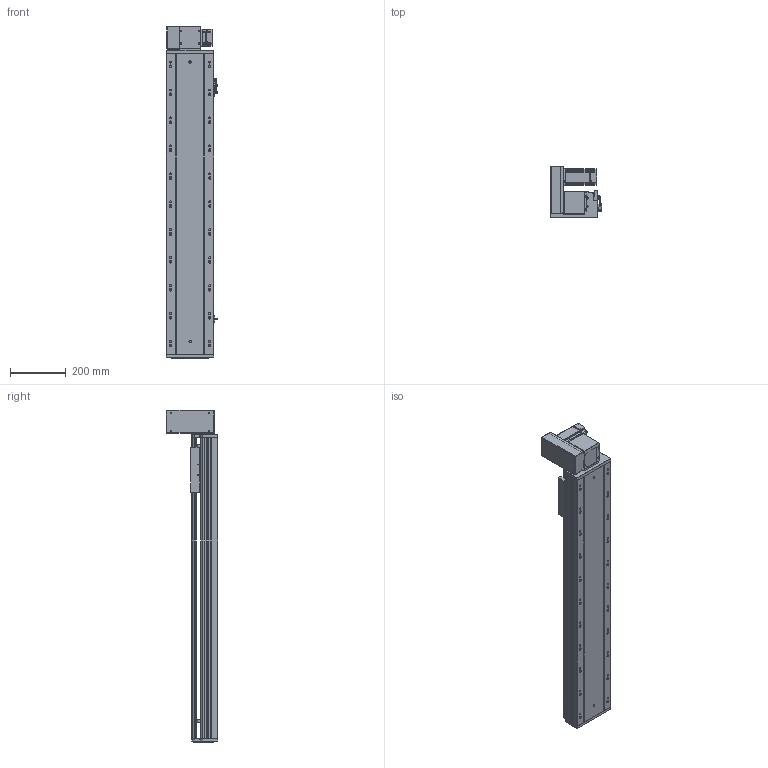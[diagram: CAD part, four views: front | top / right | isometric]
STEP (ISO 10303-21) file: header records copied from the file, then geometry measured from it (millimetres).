
FILE_DESCRIPTION (( 'STEP AP203' ), '1' );
FILE_NAME ('RY170-T-300-UL-P400W.SLDASM_800.step', '2021-03-02T02:12:34', ( '盈信电脑' ), ( '东莞市道滘镇水果街19号' ), 'SwSTEP 2.0', 'SolidWorks 2012', '' );
FILE_SCHEMA (( 'CONFIG_CONTROL_DESIGN' ));
Products named in the file (18): RY170-T-300-UL-P400W.SLDASM_800; 15; RY170-T蹟翐M4; RY170同步轮电机安装板(400W); RY170-T肮祭謫裔啣; 滅袉蝶18-10; RY170肮祭謫萇儂欶; RY120-T主同步轮轴承压盖; RY170翋肮祭謫釱; RY170-T肮祭湍揤踡輸2; RY170-T肮祭湍揤踡輸1; RY170外置感应片(200共用）; 覜茼ん672; RY170綴裔啣; RY170肮祭謫ヶ裔啣; RY170-T-300肮祭謫倰第裔啣-DL_800; RY170肮祭湍臏賑輸; RY170-T-300肮祭謫倰第菁釱-DL_800
Assembly tree (20 placements, depth 2):
  RY170-T-300-UL-P400W.SLDASM_800
    RY170-T-300肮祭謫倰第菁釱-DL_800
    RY170肮祭湍臏賑輸
    RY170-T-300肮祭謫倰第裔啣-DL_800
    RY170綴裔啣
    覜茼ん672  x3
    RY170外置感应片(200共用）
    RY170肮祭謫ヶ裔啣
    RY170翋肮祭謫釱
    RY170-T肮祭湍揤踡輸1
    RY170-T肮祭湍揤踡輸2
    RY170-T肮祭謫裔啣
    滅袉蝶18-10  x2
    RY120-T主同步轮轴承压盖
    RY170肮祭謫萇儂欶
    RY170同步轮电机安装板(400W)
    RY170-T蹟翐M4
    15
Bounding box: 183.7 x 184 x 1188 mm (x, y, z)
Volume: 6021943.8 mm3; surface area: 2031203.2 mm2
Topology: 20 solids, 20 shells, 2645 faces, 7478 edges, 4807 vertices
Faces by surface type: cylinder 1238, plane 1153, cone 224, bspline 30
Entity records: 86144 total; most frequent: CARTESIAN_POINT 20084, ORIENTED_EDGE 13624, DIRECTION 13142, EDGE_CURVE 6812, AXIS2_PLACEMENT_3D 4627, VERTEX_POINT 4475, VECTOR 3888, LINE 3888
